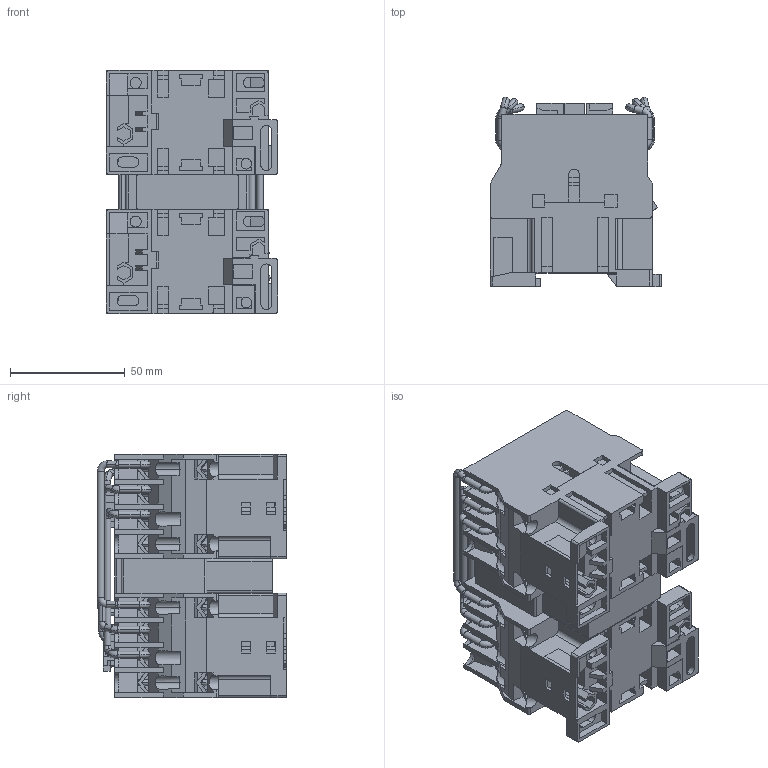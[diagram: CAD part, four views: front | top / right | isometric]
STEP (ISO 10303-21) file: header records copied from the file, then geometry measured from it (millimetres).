
FILE_DESCRIPTION (( 'STEP AP214' ), '1' );
FILE_NAME ('ﾏﾌﾋ - 1561ﾌ.STEP', '2016-05-27T10:55:12', ( '' ), ( '' ), 'SwSTEP 2.0', 'SolidWorks 2012', '' );
FILE_SCHEMA (( 'AUTOMOTIVE_DESIGN' ));
Length unit declared in the file: millimetre
Products named in the file (1): ﾏﾌﾋ - 1561ﾌ
Bounding box: 74.6 x 82.62 x 106 mm (x, y, z)
Volume: 416661.2 mm3; surface area: 102362.3 mm2
Topology: 9 solids, 9 shells, 1964 faces, 5418 edges, 3512 vertices
Faces by surface type: plane 1542, cylinder 326, torus 72, sphere 24
Entity records: 83476 total; most frequent: CARTESIAN_POINT 11349, ORIENTED_EDGE 10792, DIRECTION 10184, EDGE_CURVE 5396, VECTOR 4242, LINE 4242, VERTEX_POINT 3508, AXIS2_PLACEMENT_3D 2971
